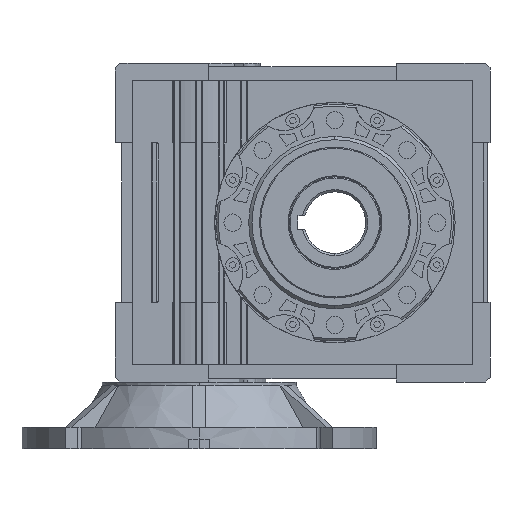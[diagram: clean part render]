
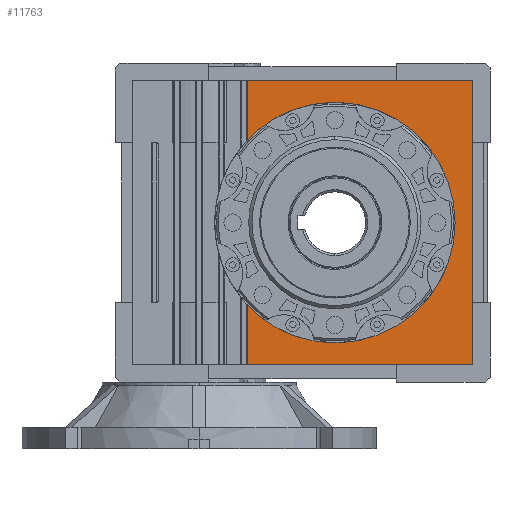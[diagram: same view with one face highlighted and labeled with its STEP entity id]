
A CAD part, left-side view. The second image highlights one B-rep face of the part: STEP entity #11763.
In plain terms, the highlighted planar face has unit normal (-1, 0, 0).
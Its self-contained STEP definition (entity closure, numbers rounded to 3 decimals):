
#3993 = VERTEX_POINT ( 'NONE', #19123 ) ;
#3994 = VERTEX_POINT ( 'NONE', #19124 ) ;
#5913 = EDGE_CURVE ( 'NONE', #3993, #3994, #17644, .T. ) ;
#7619 = EDGE_CURVE ( 'NONE', #13157, #13158, #27276, .T. ) ;
#7625 = EDGE_CURVE ( 'NONE', #13158, #13126, #27321, .T. ) ;
#7649 = EDGE_CURVE ( 'NONE', #13171, #13157, #27400, .T. ) ;
#7706 = EDGE_CURVE ( 'NONE', #13126, #13188, #27580, .T. ) ;
#7710 = EDGE_CURVE ( 'NONE', #3994, #13171, #27596, .T. ) ;
#7711 = EDGE_CURVE ( 'NONE', #13188, #3993, #28047, .T. ) ;
#10845 = EDGE_LOOP ( 'NONE', ( #12968, #12969, #12970, #12971, #12972, #12973, #12974 ) ) ;
#11763 = ADVANCED_FACE ( 'NONE', ( #32168 ), #32169, .F. ) ;
#12968 = ORIENTED_EDGE ( 'NONE', *, *, #7706, .F. ) ;
#12969 = ORIENTED_EDGE ( 'NONE', *, *, #7625, .F. ) ;
#12970 = ORIENTED_EDGE ( 'NONE', *, *, #7619, .F. ) ;
#12971 = ORIENTED_EDGE ( 'NONE', *, *, #7649, .F. ) ;
#12972 = ORIENTED_EDGE ( 'NONE', *, *, #7710, .F. ) ;
#12973 = ORIENTED_EDGE ( 'NONE', *, *, #5913, .F. ) ;
#12974 = ORIENTED_EDGE ( 'NONE', *, *, #7711, .F. ) ;
#13126 = VERTEX_POINT ( 'NONE', #34644 ) ;
#13157 = VERTEX_POINT ( 'NONE', #34675 ) ;
#13158 = VERTEX_POINT ( 'NONE', #34676 ) ;
#13171 = VERTEX_POINT ( 'NONE', #34689 ) ;
#13188 = VERTEX_POINT ( 'NONE', #34706 ) ;
#17644 = CIRCLE ( 'NONE', #17650, 55.8 ) ;
#17650 = AXIS2_PLACEMENT_3D ( 'NONE', #19703, #19704, #19705 ) ;
#19123 = CARTESIAN_POINT ( 'NONE',  ( -33.5, -55.8, 0. ) ) ;
#19124 = CARTESIAN_POINT ( 'NONE',  ( -33.5, 40.758, 38.11 ) ) ;
#19703 = CARTESIAN_POINT ( 'NONE',  ( -33.5, 0., 0. ) ) ;
#19704 = DIRECTION ( 'NONE',  ( -1., 0., 0. ) ) ;
#19705 = DIRECTION ( 'NONE',  ( 0., 1., 0. ) ) ;
#27276 = LINE ( 'NONE', #27310, #27924 ) ;
#27310 = CARTESIAN_POINT ( 'NONE',  ( -33.5, -64., -66. ) ) ;
#27311 = DIRECTION ( 'NONE',  ( 0., 0., -1. ) ) ;
#27321 = LINE ( 'NONE', #27328, #27937 ) ;
#27328 = CARTESIAN_POINT ( 'NONE',  ( -33.5, -64., -66. ) ) ;
#27329 = DIRECTION ( 'NONE',  ( 0., 1., 0. ) ) ;
#27400 = LINE ( 'NONE', #27401, #27968 ) ;
#27401 = CARTESIAN_POINT ( 'NONE',  ( -33.5, -64., 66. ) ) ;
#27402 = DIRECTION ( 'NONE',  ( 0., -1., 0. ) ) ;
#27580 = LINE ( 'NONE', #27581, #28040 ) ;
#27581 = CARTESIAN_POINT ( 'NONE',  ( -33.5, 40.758, -66. ) ) ;
#27591 = DIRECTION ( 'NONE',  ( 0., 0., 1. ) ) ;
#27596 = LINE ( 'NONE', #27602, #28036 ) ;
#27602 = CARTESIAN_POINT ( 'NONE',  ( -33.5, 40.758, 66. ) ) ;
#27603 = DIRECTION ( 'NONE',  ( 0., 0., 1. ) ) ;
#27605 = CARTESIAN_POINT ( 'NONE',  ( -33.5, 0., 0. ) ) ;
#27606 = DIRECTION ( 'NONE',  ( -1., 0., 0. ) ) ;
#27607 = DIRECTION ( 'NONE',  ( 0., 1., 0. ) ) ;
#27924 = VECTOR ( 'NONE', #27311, 1000. ) ;
#27937 = VECTOR ( 'NONE', #27329, 1000. ) ;
#27968 = VECTOR ( 'NONE', #27402, 1000. ) ;
#28036 = VECTOR ( 'NONE', #27603, 1000. ) ;
#28040 = VECTOR ( 'NONE', #27591, 1000. ) ;
#28047 = CIRCLE ( 'NONE', #28049, 55.8 ) ;
#28049 = AXIS2_PLACEMENT_3D ( 'NONE', #27605, #27606, #27607 ) ;
#31040 = AXIS2_PLACEMENT_3D ( 'NONE', #32160, #32171, #32172 ) ;
#32160 = CARTESIAN_POINT ( 'NONE',  ( -33.5, -64., -66. ) ) ;
#32168 = FACE_OUTER_BOUND ( 'NONE', #10845, .T. ) ;
#32169 = PLANE ( 'NONE',  #31040 ) ;
#32171 = DIRECTION ( 'NONE',  ( 1., 0., 0. ) ) ;
#32172 = DIRECTION ( 'NONE',  ( 0., 0., -1. ) ) ;
#34644 = CARTESIAN_POINT ( 'NONE',  ( -33.5, 40.758, -66. ) ) ;
#34675 = CARTESIAN_POINT ( 'NONE',  ( -33.5, -64., 66. ) ) ;
#34676 = CARTESIAN_POINT ( 'NONE',  ( -33.5, -64., -66. ) ) ;
#34689 = CARTESIAN_POINT ( 'NONE',  ( -33.5, 40.758, 66. ) ) ;
#34706 = CARTESIAN_POINT ( 'NONE',  ( -33.5, 40.758, -38.11 ) ) ;
